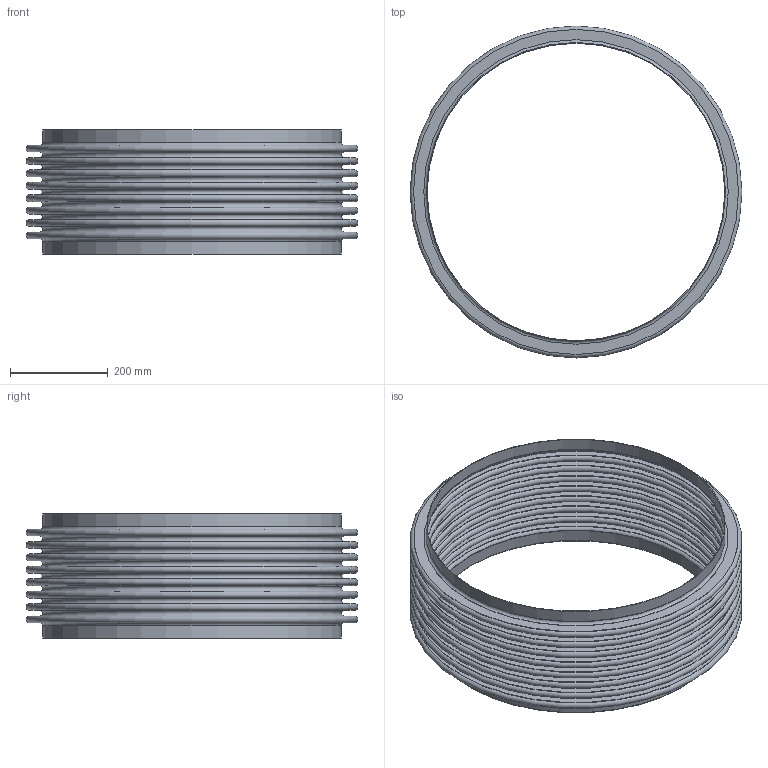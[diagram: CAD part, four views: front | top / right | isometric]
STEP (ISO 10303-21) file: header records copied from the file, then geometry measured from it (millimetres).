
FILE_DESCRIPTION(/* description */ (''),/* implementation_level */ '2;1');
FILE_NAME(/* name */ 'US-24-8-85S.stp',/* time_stamp */ '2026-07-21T11:19:06-05:00',/* author */ ('linda'),/* organization */ (''),/* preprocessor_version */ 'ST-DEVELOPER v20.1',/* originating_system */ 'Autodesk Inventor 2026',/* authorisation */ '');
FILE_SCHEMA (('AUTOMOTIVE_DESIGN { 1 0 10303 214 3 1 1 }'));
Length unit declared in the file: inch
Products named in the file (1): Part3
Bounding box: 679.45 x 679.45 x 254 mm (x, y, z)
Volume: 1736523 mm3; surface area: 2862664.4 mm2
Topology: 3 solids, 3 shells, 76 faces, 114 edges, 77 vertices
Faces by surface type: plane 38, torus 34, cylinder 4
Full cylindrical faces by diameter (mm): 609.6 x2, 612.038 x2
Entity records: 1899 total; most frequent: DIRECTION 378, CARTESIAN_POINT 268, ORIENTED_EDGE 228, AXIS2_PLACEMENT_3D 187, EDGE_LOOP 114, EDGE_CURVE 114, CIRCLE 110, STYLED_ITEM 79
